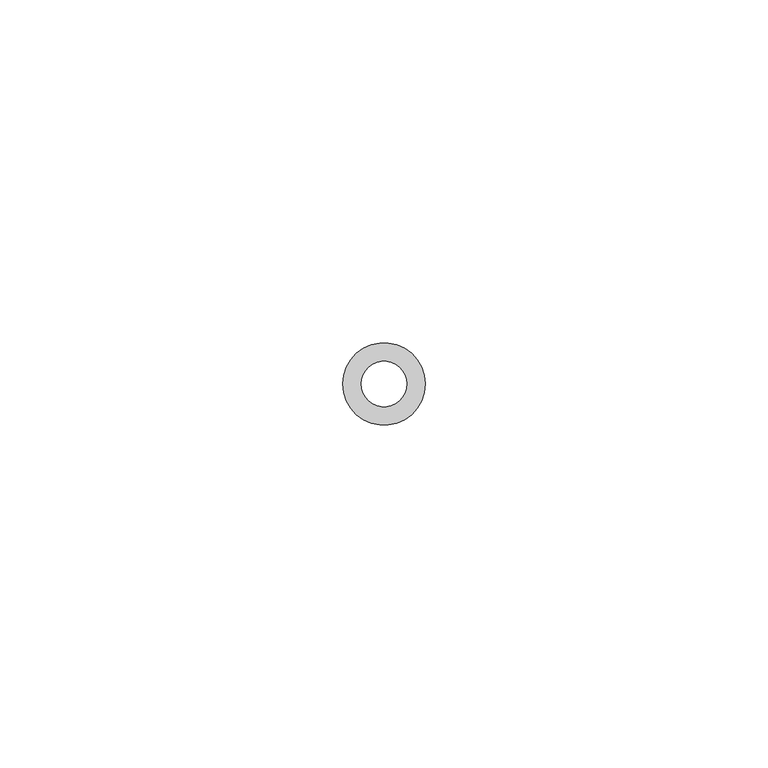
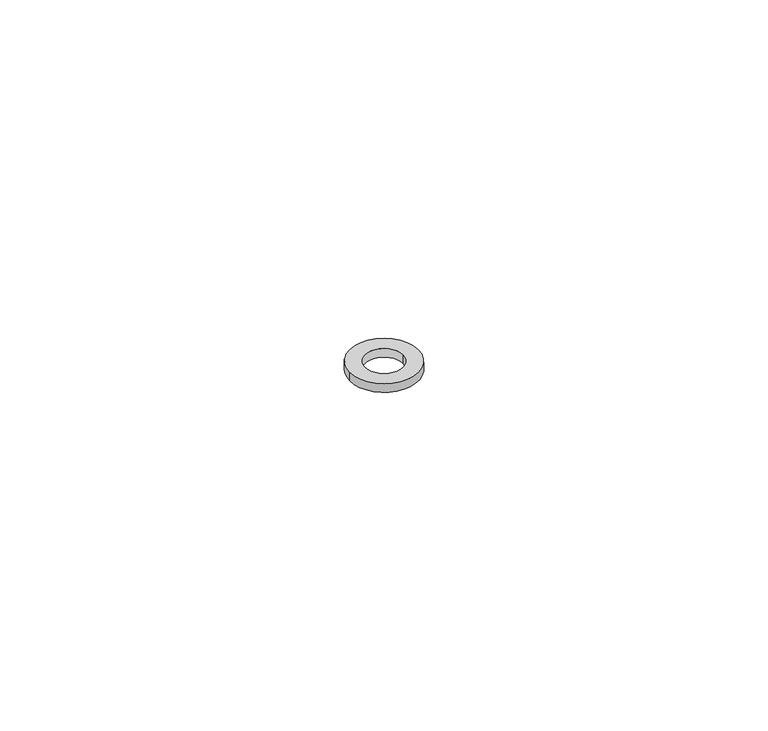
"""IFC4 building model written with IfcOpenShell, lengths in millimetres: valve geometry, Superfix Flat Washer : Superfix Flat Washer Extra +  M6x15x1."""

from ifc_helpers import new_model, si_unit, point, origin, origin_with_axes, origin_2d, place, context, project, spatial, circle_curve, trimmed, segment, composite_curve, outline, extrude, source, transform, mapped, element, save


def valve_45f2bd6e(model_context):
    return source(origin(), model_context, "Body", "SweptSolid", [
        extrude(outline(composite_curve([segment(trimmed(circle_curve(origin_2d(), 6.0), [point((-6.0, 0.0))], [point((6.0, 0.0))], False, "CARTESIAN"), True, "CONTINUOUS"), segment(trimmed(circle_curve(origin_2d(), 6.0), [point((6.0, 0.0))], [point((-6.0, 0.0))], False, "CARTESIAN"), True, "CONTINUOUS")], self_intersect=False), holes=[composite_curve([segment(trimmed(circle_curve(origin_2d(), 3.3), [point((-3.3, 0.0))], [point((3.3, 0.0))], True, "CARTESIAN"), True, "CONTINUOUS"), segment(trimmed(circle_curve(origin_2d(), 3.3), [point((3.3, 0.0))], [point((-3.3, 0.0))], True, "CARTESIAN"), True, "CONTINUOUS")], self_intersect=False)]), origin_with_axes(), (0.0, 0.0, 1.0), 1.6),
    ])


if __name__ == "__main__":
    model = new_model("IFC4")
    model_context = context("Model", 3, world=origin())
    ifc_project = project(units=[si_unit("LENGTHUNIT", "METRE", prefix="MILLI")], contexts=[model_context])
    site = spatial("IfcSite", under=ifc_project)
    building = spatial("IfcBuilding", under=site)
    placement = place(None, origin())
    valve_shape = valve_45f2bd6e(model_context)
    element("IfcValve", 1, ObjectType="Superfix Flat Washer : Superfix Flat Washer Extra +  M6x15x1", at=placement, inside=building, context=model_context, shape_type="MappedRepresentation", body=[
        mapped(valve_shape, transform((0.0, 0.0, 0.0), x_axis=(1.0, 0.0, 0.0), y_axis=(0.0, 1.0, 0.0), z_axis=(0.0, 0.0, 1.0))),
    ])
    save(model, "model.ifc")
